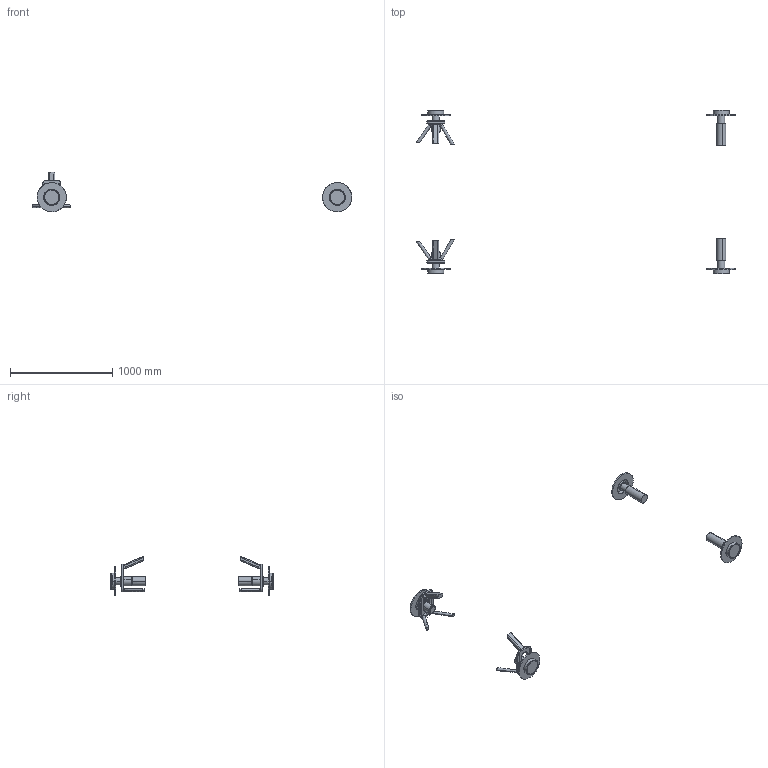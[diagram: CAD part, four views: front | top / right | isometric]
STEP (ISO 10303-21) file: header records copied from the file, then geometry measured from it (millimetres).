
FILE_DESCRIPTION(('ANSA STEP Exchange Structure File'),'2;1');
FILE_NAME('C:/Users/bhupertz/Desktop/DrivAer_Aux_CAD_240401/21_Chassis.step','2024-04-10T12:24',('bhupertz'),('none'),'ANSA 23.1.1','ANSA 23.1.1 AP214','none');
FILE_SCHEMA(('AUTOMOTIVE_DESIGN { 1 0 10303 214 1 1 1 1 }'));
Length unit declared in the file: millimetre
Products named in the file (1): 21_Chassis
Bounding box: 3119.4 x 1594.31 x 387.24 mm (x, y, z)
Volume: 12286994.4 mm3; surface area: 1531023.2 mm2
Topology: 10 solids, 10 shells, 256 faces, 608 edges, 400 vertices
Faces by surface type: bspline 152, revolution 104
Entity records: 19636 total; most frequent: CARTESIAN_POINT 15009, ORIENTED_EDGE 1216, B_SPLINE_CURVE_WITH_KNOTS 608, EDGE_CURVE 608, VERTEX_POINT 400, EDGE_LOOP 296, FACE_OUTER_BOUND 256, ADVANCED_FACE 256
